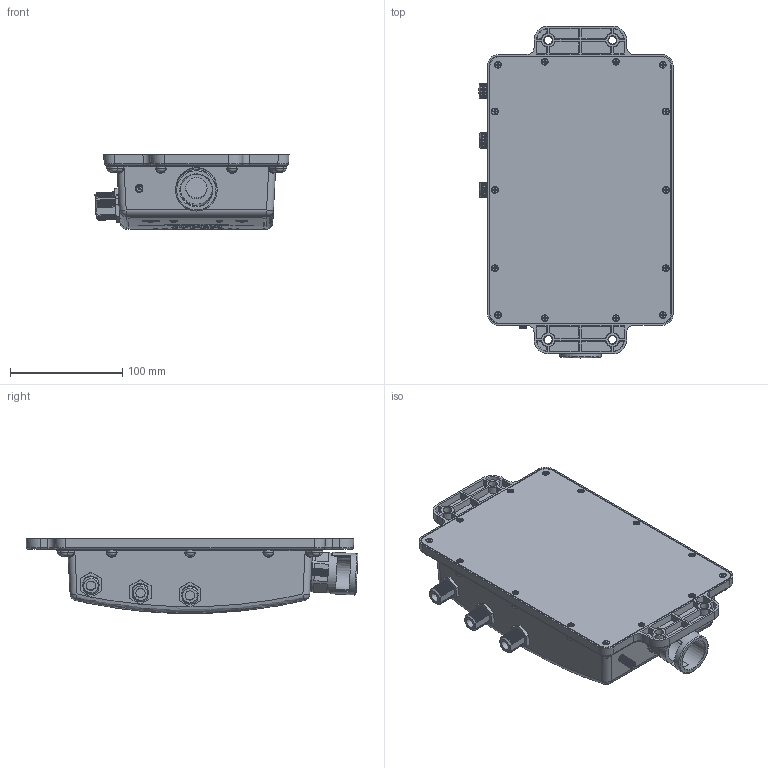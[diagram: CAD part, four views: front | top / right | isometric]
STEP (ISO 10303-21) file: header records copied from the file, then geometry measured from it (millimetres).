
FILE_DESCRIPTION(('972-0010'),'1');
FILE_NAME('RLX2-IHNF-WC Radio 3D Model', 'Revision 00', ( 'ProSoft Technology' ), ( 'ProSoft Technology' ), '', '', '' );
FILE_SCHEMA (('AUTOMOTIVE_DESIGN'));
Products named in the file (1): RLX2-IHNF-WC 3D Model
Bounding box: 172.87 x 295.75 x 66.8 mm (x, y, z)
Volume: 454998.6 mm3; surface area: 259436.3 mm2
Topology: 1 solids, 16 shells, 3780 faces, 10202 edges, 6740 vertices
Faces by surface type: plane 1866, cylinder 722, cone 588, extrusion 443, bspline 117, torus 36, sphere 8
Full cylindrical faces by diameter (mm): 1.016 x15, 2.156 x18, 2.387 x14, 2.845 x14, 3.175 x4, 3.406 x5, 3.937 x14, 4.216 x1, 6.325 x4, 8.382 x3, 10.312 x3, 14.554 x3, 19 x1, 19.05 x3, 25 x1, 28.5 x1, 35 x1, 35.5 x1, 36.322 x1, 37 x1
Entity records: 223623 total; most frequent: CARTESIAN_POINT 132882, ORIENTED_EDGE 19610, DIRECTION 17003, EDGE_CURVE 9805, VERTEX_POINT 6623, AXIS2_PLACEMENT_3D 6129, VECTOR 4745, FACE_BOUND 4364
